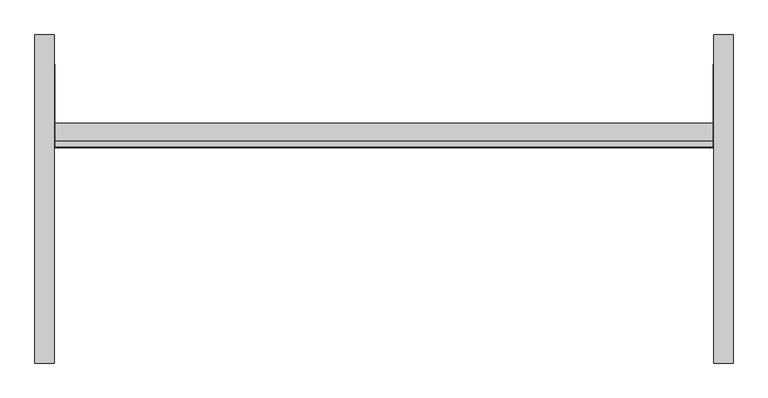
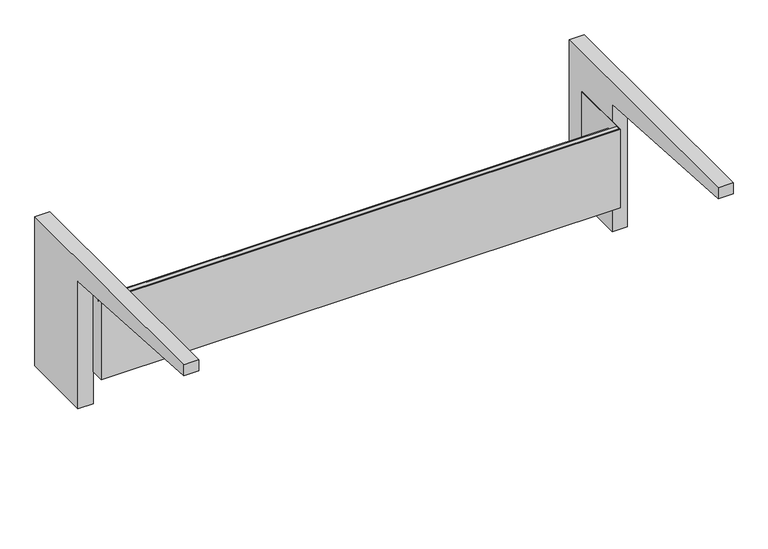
"""IFC4 building model written with IfcOpenShell, lengths in millimetres: furniture geometry."""

from ifc_helpers import new_model, si_unit, point, frame, frame_2d, origin, place, context, project, spatial, polyline, circle_curve, trimmed, segment, composite_curve, outline, extrude, source, transform, mapped, element, save


def furniture_0ce6bd9a(model_context):
    return source(origin(), model_context, "Body", "SweptSolid", [
        extrude(outline(composite_curve([segment(polyline([(177.8, 882.65), (177.8, 533.4), (12.7, 533.4), (12.7, 831.85)]), True, "CONTINUOUS"), segment(trimmed(circle_curve(frame_2d((-388.143904, -2317.7524637)), 3175.0073252), [point((12.7, 831.85))], [point((-393.7, 857.25))], True, "CARTESIAN"), True, "CONTINUOUS"), segment(polyline([(-393.7, 857.25), (-393.7, 882.65), (177.8, 882.65)]), True, "CONTINUOUS")], self_intersect=False)), frame((574.675, 0.0, 0.0), z_axis=(1.0, 0.0, 0.0), x_axis=(0.0, 1.0, 0.0)), (0.0, 0.0, 1.0), 33.3375),
        extrude(outline(composite_curve([segment(polyline([(-393.7, 857.25), (-393.7, 882.65), (177.8, 882.65), (177.8, 533.4), (12.7, 533.4), (12.7, 831.85)]), True, "CONTINUOUS"), segment(trimmed(circle_curve(frame_2d((-388.143904, -2317.7524637)), 3175.0073252), [point((12.7, 831.85))], [point((-393.7, 857.25))], True, "CARTESIAN"), True, "CONTINUOUS")], self_intersect=False)), frame((-608.0125, 0.0, 0.0), z_axis=(1.0, 0.0, 0.0), x_axis=(0.0, 1.0, 0.0)), (0.0, 0.0, 1.0), 33.3375),
        extrude(outline(polyline([(-573.0875, -17.4625), (573.0875, -17.4625), (573.0875, 127.0), (574.675, 127.0), (574.675, -19.05), (-574.675, -19.05), (-574.675, 127.0), (-573.0875, 127.0), (-573.0875, -17.4625)])), frame((0.0, 0.0, 608.9396), z_axis=(0.0, 0.0, 1.0), x_axis=(1.0, 0.0, 0.0)), (0.0, 0.0, 1.0), 184.15),
        extrude(outline(polyline([(-7.9057553, 792.29585), (-17.4625, 792.29585), (-17.4625, 770.07085), (24.1300012, 770.07085), (24.1300012, 608.9396), (-19.05, 608.9396), (-19.05, 793.0896), (-7.1120053, 793.0896), (-7.1120053, 786.0791994), (-7.9057553, 786.0791994), (-7.9057553, 792.29585)])), frame((-574.675, 0.0, 0.0), z_axis=(1.0, 0.0, 0.0), x_axis=(0.0, 1.0, 0.0)), (0.0, 0.0, 1.0), 1149.35),
    ])


if __name__ == "__main__":
    model = new_model("IFC4")
    model_context = context("Model", 3, world=origin())
    ifc_project = project(units=[si_unit("LENGTHUNIT", "METRE", prefix="MILLI")], contexts=[model_context])
    site = spatial("IfcSite", under=ifc_project)
    building = spatial("IfcBuilding", under=site)
    placement = place(None, origin())
    furniture_shape = furniture_0ce6bd9a(model_context)
    element("IfcFurniture", 1, ObjectType="HermanMiller_CoStruc_C2140W_WorkSurfaceSupport_ComponentAdaptor : 14\"H x 24\"D x 48\"W", at=placement, inside=building, context=model_context, shape_type="MappedRepresentation", body=[
        mapped(furniture_shape, transform((0.0, 0.0, 0.0), x_axis=(1.0, 0.0, 0.0), y_axis=(0.0, 1.0, 0.0), z_axis=(0.0, 0.0, 1.0))),
    ])
    save(model, "model.ifc")
